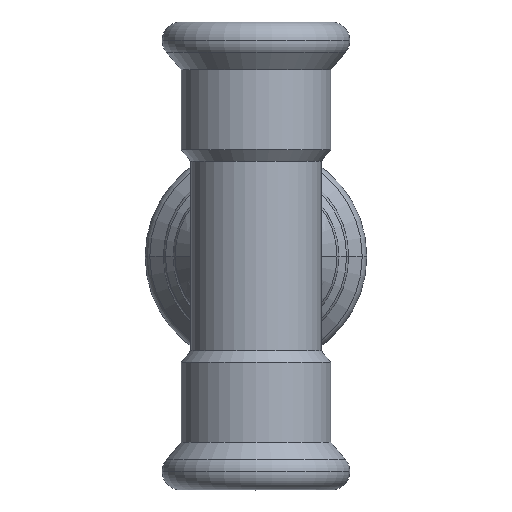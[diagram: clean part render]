
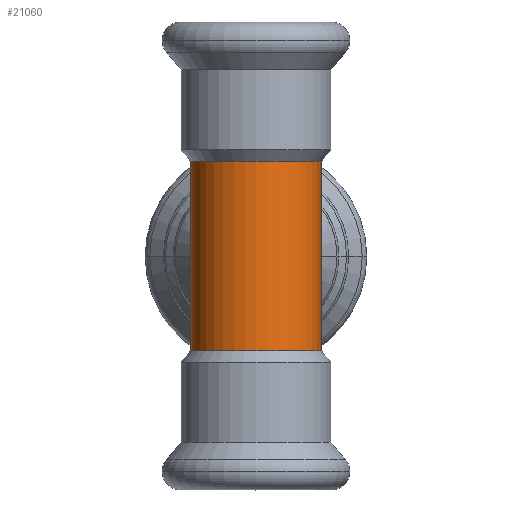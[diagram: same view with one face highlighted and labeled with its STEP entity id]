
A CAD part, top view. The second image highlights one B-rep face of the part: STEP entity #21060.
In plain terms, the highlighted cylindrical face has radius 11 mm (diameter 22 mm), a partial arc.
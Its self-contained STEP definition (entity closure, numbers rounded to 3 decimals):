
#4560=CARTESIAN_POINT('',(-404.306,15.673,
16.));
#4570=DIRECTION('',(0.,0.,1.));
#4580=DIRECTION('',(-1.,0.,0.));
#4590=AXIS2_PLACEMENT_3D('',#4560,#4570,#4580);
#4600=CYLINDRICAL_SURFACE('',#4590,11.);
#12060=CARTESIAN_POINT('',(-393.306,15.673,
16.));
#12070=VERTEX_POINT('',#12060);
#12250=CARTESIAN_POINT('',(-415.306,15.673,
16.));
#12260=VERTEX_POINT('',#12250);
#12290=CARTESIAN_POINT('',(-404.306,15.673,
16.));
#12300=DIRECTION('',(0.,0.,1.));
#12310=DIRECTION('',(1.,0.,0.));
#12320=AXIS2_PLACEMENT_3D('',#12290,#12300,#12310);
#12330=CIRCLE('',#12320,11.);
#12890=CARTESIAN_POINT('',(-393.306,15.673,
16.));
#12900=DIRECTION('',(0.,0.,1.));
#12910=VECTOR('',#12900,1.);
#12920=LINE('',#12890,#12910);
#12930=CARTESIAN_POINT('',(-393.306,15.673,
-16.));
#12940=VERTEX_POINT('',#12930);
#12950=CARTESIAN_POINT('',(-393.306,15.673,
0.));
#12960=VERTEX_POINT('',#12950);
#12970=EDGE_CURVE('',#12940,#12960,#12920,.T.);
#13080=CARTESIAN_POINT('',(-415.306,15.673,0.));
#13090=VERTEX_POINT('',#13080);
#13120=CARTESIAN_POINT('',(-415.306,15.673,
16.));
#13130=DIRECTION('',(0.,0.,1.));
#13140=VECTOR('',#13130,1.);
#13150=LINE('',#13120,#13140);
#13160=CARTESIAN_POINT('',(-415.306,15.673,
-16.));
#13170=VERTEX_POINT('',#13160);
#13180=EDGE_CURVE('',#13170,#13090,#13150,.T.);
#13200=CARTESIAN_POINT('',(-404.306,15.673,
-16.));
#13210=DIRECTION('',(0.,0.,1.));
#13220=DIRECTION('',(-1.,0.,0.));
#13230=AXIS2_PLACEMENT_3D('',#13200,#13210,#13220);
#13240=CIRCLE('',#13230,11.);
#20860=EDGE_CURVE('',#12260,#12070,#12330,.T.);
#20950=EDGE_CURVE('',#13170,#12940,#13240,.T.);
#20960=ORIENTED_EDGE('',*,*,#20950,.T.);
#20970=ORIENTED_EDGE('',*,*,#13180,.F.);
#20980=EDGE_CURVE('',#13090,#12260,#13150,.T.);
#20990=ORIENTED_EDGE('',*,*,#20980,.F.);
#21000=ORIENTED_EDGE('',*,*,#20860,.F.);
#21010=EDGE_CURVE('',#12960,#12070,#12920,.T.);
#21020=ORIENTED_EDGE('',*,*,#21010,.T.);
#21030=ORIENTED_EDGE('',*,*,#12970,.T.);
#21040=EDGE_LOOP('',(#21030,#21020,#21000,#20990,#20970,#20960));
#21050=FACE_OUTER_BOUND('',#21040,.T.);
#21060=ADVANCED_FACE('',(#21050),#4600,.T.);
